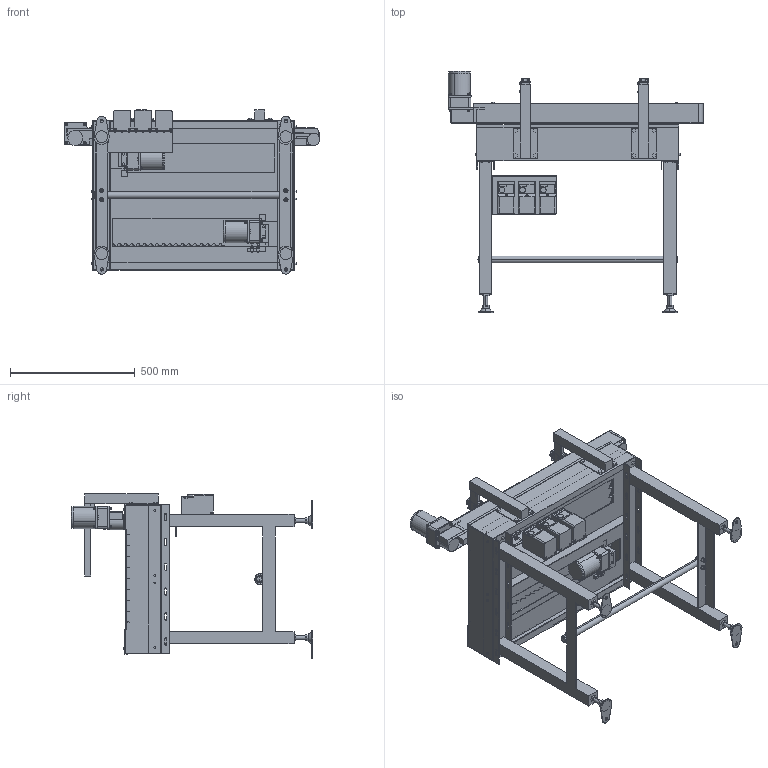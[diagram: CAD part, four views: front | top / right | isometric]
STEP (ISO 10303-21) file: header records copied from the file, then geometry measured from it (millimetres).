
FILE_DESCRIPTION( (''), '2;1');
FILE_NAME ('SGA-304x3-400-L-IVH-15-B.stp','2025-01-31T09:09:26',(''),(''),'spGate 20.6.2 (****-****-****-****)','','');
FILE_SCHEMA (('AUTOMOTIVE_DESIGN'));
Length unit declared in the file: millimetre
Products named in the file (91): NewModel; TEMP_X_T-prt0; TEMP_X_T-prt1; TEMP_X_T-prt2; TEMP_X_T-prt3; TEMP_X_T-prt4; TEMP_X_T-prt5; TEMP_X_T-prt6; TEMP_X_T-prt7; TEMP_X_T-prt8; TEMP_X_T-prt9; TEMP_X_T-prt10; TEMP_X_T-prt11; TEMP_X_T-prt12; TEMP_X_T-prt13; TEMP_X_T-prt14; TEMP_X_T-prt15; TEMP_X_T-prt16; TEMP_X_T-prt17; TEMP_X_T-prt18; TEMP_X_T-prt19; TEMP_X_T-prt20; TEMP_X_T-prt21; TEMP_X_T-prt22; TEMP_X_T-prt23; TEMP_X_T-prt24; TEMP_X_T-prt25; TEMP_X_T-prt26; TEMP_X_T-prt27; TEMP_X_T-prt28; TEMP_X_T-prt29; TEMP_X_T-prt30; TEMP_X_T-prt31; TEMP_X_T-prt32; TEMP_X_T-prt33; TEMP_X_T-prt34; TEMP_X_T-prt35; TEMP_X_T-prt36; TEMP_X_T-prt37; TEMP_X_T-prt38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
Assembly tree (90 placements, depth 2):
  NewModel
    TEMP_X_T-prt0
    TEMP_X_T-prt1
    TEMP_X_T-prt2
    TEMP_X_T-prt3
    TEMP_X_T-prt4
    TEMP_X_T-prt5
    TEMP_X_T-prt6
    TEMP_X_T-prt7
    TEMP_X_T-prt8
    TEMP_X_T-prt9
    TEMP_X_T-prt10
    TEMP_X_T-prt11
    TEMP_X_T-prt12
    TEMP_X_T-prt13
    TEMP_X_T-prt14
    TEMP_X_T-prt15
    TEMP_X_T-prt16
    TEMP_X_T-prt17
    TEMP_X_T-prt18
    TEMP_X_T-prt19
    TEMP_X_T-prt20
    TEMP_X_T-prt21
    TEMP_X_T-prt22
    TEMP_X_T-prt23
    TEMP_X_T-prt24
    TEMP_X_T-prt25
    TEMP_X_T-prt26
    TEMP_X_T-prt27
    TEMP_X_T-prt28
    TEMP_X_T-prt29
    TEMP_X_T-prt30
    TEMP_X_T-prt31
    TEMP_X_T-prt32
    TEMP_X_T-prt33
    TEMP_X_T-prt34
    TEMP_X_T-prt35
    TEMP_X_T-prt36
    TEMP_X_T-prt37
    TEMP_X_T-prt38
    TEMP_X_T-prt39
    TEMP_X_T-prt40
    TEMP_X_T-prt41
    TEMP_X_T-prt42
    TEMP_X_T-prt43
    TEMP_X_T-prt44
    TEMP_X_T-prt45
    TEMP_X_T-prt46
    TEMP_X_T-prt47
    TEMP_X_T-prt48
    TEMP_X_T-prt49
    TEMP_X_T-prt50
    TEMP_X_T-prt51
    TEMP_X_T-prt52
    TEMP_X_T-prt53
    TEMP_X_T-prt54
    TEMP_X_T-prt55
    TEMP_X_T-prt56
    TEMP_X_T-prt57
    TEMP_X_T-prt58
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Bounding box: 1025.9 x 969.4 x 660 mm (x, y, z)
Volume: 24657323.1 mm3; surface area: 5576478.3 mm2
Topology: 90 solids, 90 shells, 3255 faces, 8046 edges, 5144 vertices
Faces by surface type: plane 2146, cylinder 750, bspline 343, sphere 16
Entity records: 167022 total; most frequent: CARTESIAN_POINT 24046, ORIENTED_EDGE 16004, DIRECTION 15041, COLOUR_RGB 11347, PRESENTATION_STYLE_ASSIGNMENT 11347, STYLED_ITEM 11347, EDGE_CURVE 8002, DRAUGHTING_PRE_DEFINED_CURVE_FONT 8002
